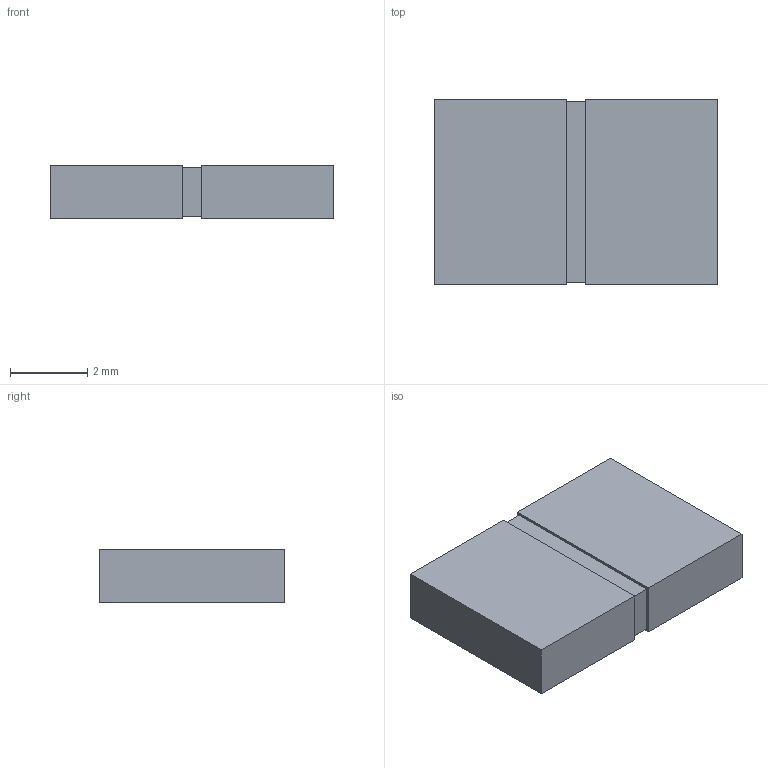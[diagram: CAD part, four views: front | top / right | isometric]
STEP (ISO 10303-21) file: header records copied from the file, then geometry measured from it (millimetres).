
FILE_DESCRIPTION(('STEP AP214'),'1');
FILE_NAME('WSBS8518_VIS','2021-06-19T09:45:14',(''),(''),'','','');
FILE_SCHEMA(('AUTOMOTIVE_DESIGN'));
Length unit declared in the file: millimetre
Products named in the file (1): product
Bounding box: 7.37 x 4.83 x 1.4 mm (x, y, z)
Volume: 49.2 mm3; surface area: 130.2 mm2
Topology: 3 solids, 3 shells, 18 faces, 36 edges, 24 vertices
Faces by surface type: plane 18
Entity records: 489 total; most frequent: DIRECTION 74, ORIENTED_EDGE 72, CARTESIAN_POINT 43, EDGE_CURVE 36, LINE 36, VECTOR 36, VERTEX_POINT 24, AXIS2_PLACEMENT_3D 19
